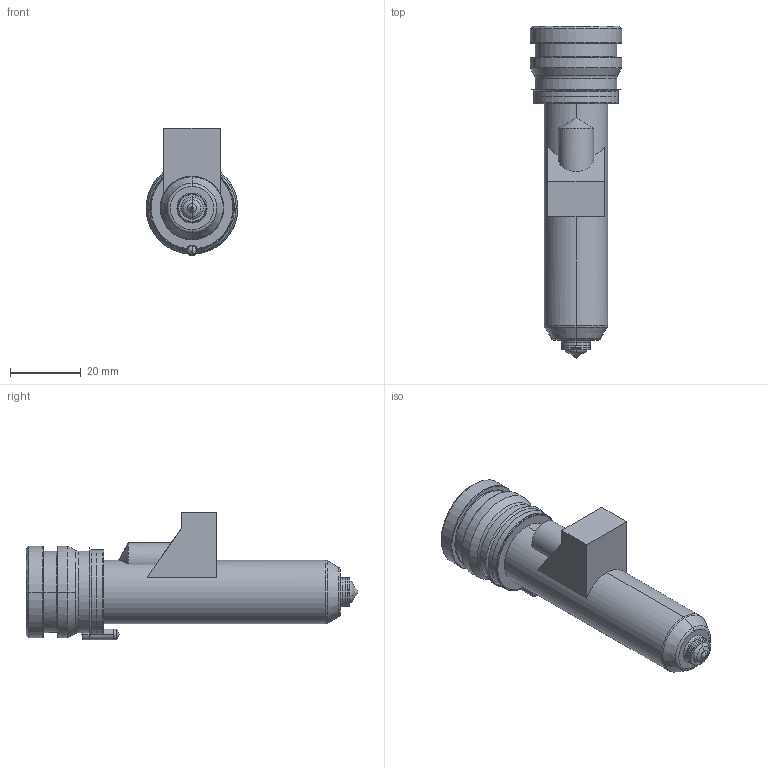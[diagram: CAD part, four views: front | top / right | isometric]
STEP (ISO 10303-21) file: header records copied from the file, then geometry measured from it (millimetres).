
FILE_DESCRIPTION((''),'2;1');
FILE_NAME('TH18076-M-1GLT-PK-JG','2023-12-14T',('umhib'),('Thermoplay S.p.A.'),'PRO/ENGINEER BY PARAMETRIC TECHNOLOGY CORPORATION, 2017170','PRO/ENGINEER BY PARAMETRIC TECHNOLOGY CORPORATION, 2017170','');
FILE_SCHEMA(('CONFIG_CONTROL_DESIGN'));
Length unit declared in the file: millimetre
Products named in the file (1): TH18076-M-1GLT-PK-JG
Bounding box: 26 x 94 x 36.1 mm (x, y, z)
Volume: 20658.7 mm3; surface area: 16244.2 mm2
Topology: 1 solids, 2 shells, 413 faces, 1052 edges, 647 vertices
Faces by surface type: cylinder 160, plane 92, cone 64, torus 64, bspline 22, sphere 9, extrusion 2
Entity records: 16937 total; most frequent: CARTESIAN_POINT 4939, DIRECTION 2166, ORIENTED_EDGE 2078, EDGE_CURVE 1041, AXIS2_PLACEMENT_3D 881, VERTEX_POINT 647, CIRCLE 491, EDGE_LOOP 441
